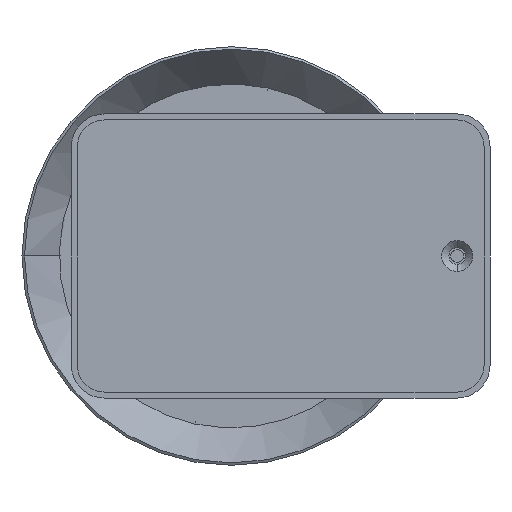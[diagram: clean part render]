
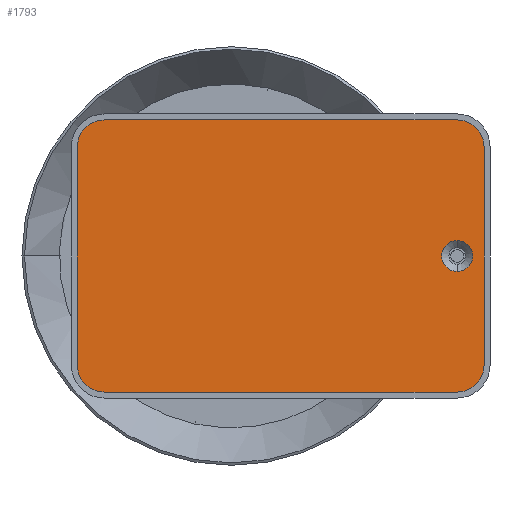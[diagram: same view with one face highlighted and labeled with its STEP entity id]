
A CAD part, front view. The second image highlights one B-rep face of the part: STEP entity #1793.
In plain terms, the highlighted planar face has unit normal (0, -1, 0).
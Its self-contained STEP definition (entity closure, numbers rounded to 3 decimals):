
#62 = DIRECTION ( 'NONE',  ( 0., 0., 1. ) ) ;
#217 = CARTESIAN_POINT ( 'NONE',  ( -136., 0., 45.5 ) ) ;
#306 = CARTESIAN_POINT ( 'NONE',  ( 0., 0., 0. ) ) ;
#384 = VERTEX_POINT ( 'NONE', #3234 ) ;
#388 = CARTESIAN_POINT ( 'NONE',  ( -9., 0., 0. ) ) ;
#428 = VECTOR ( 'NONE', #698, 1000. ) ;
#481 = CARTESIAN_POINT ( 'NONE',  ( 0., 0., 36.5 ) ) ;
#567 = DIRECTION ( 'NONE',  ( 0., -1., 0. ) ) ;
#634 = EDGE_CURVE ( 'NONE', #5266, #2402, #3615, .T. ) ;
#650 = ORIENTED_EDGE ( 'NONE', *, *, #4179, .T. ) ;
#685 = ORIENTED_EDGE ( 'NONE', *, *, #2403, .F. ) ;
#698 = DIRECTION ( 'NONE',  ( 0., 0., 1. ) ) ;
#725 = LINE ( 'NONE', #217, #936 ) ;
#818 = CARTESIAN_POINT ( 'NONE',  ( -9., 0., -45.5 ) ) ;
#895 = DIRECTION ( 'NONE',  ( 0., -1., 0. ) ) ;
#900 = ORIENTED_EDGE ( 'NONE', *, *, #634, .F. ) ;
#918 = EDGE_CURVE ( 'NONE', #5266, #2609, #1652, .T. ) ;
#925 = EDGE_CURVE ( 'NONE', #384, #2476, #3998, .T. ) ;
#936 = VECTOR ( 'NONE', #1049, 1000. ) ;
#962 = ORIENTED_EDGE ( 'NONE', *, *, #3252, .F. ) ;
#1049 = DIRECTION ( 'NONE',  ( 1., 0., 0. ) ) ;
#1061 = EDGE_CURVE ( 'NONE', #1108, #5627, #725, .T. ) ;
#1108 = VERTEX_POINT ( 'NONE', #3775 ) ;
#1164 = DIRECTION ( 'NONE',  ( 0., -1., 0. ) ) ;
#1188 = DIRECTION ( 'NONE',  ( -1., 0., 0. ) ) ;
#1491 = DIRECTION ( 'NONE',  ( 0., 0., 1. ) ) ;
#1613 = CARTESIAN_POINT ( 'NONE',  ( -136., 0., -45.5 ) ) ;
#1652 = CIRCLE ( 'NONE', #4032, 9. ) ;
#1787 = ORIENTED_EDGE ( 'NONE', *, *, #918, .T. ) ;
#1793 = ADVANCED_FACE ( 'NONE', ( #3502, #5267 ), #3720, .F. ) ;
#1847 = CARTESIAN_POINT ( 'NONE',  ( -9., 0., 0. ) ) ;
#1890 = CARTESIAN_POINT ( 'NONE',  ( -127., 0., 36.5 ) ) ;
#1949 = CARTESIAN_POINT ( 'NONE',  ( -127., 0., -36.5 ) ) ;
#1954 = EDGE_LOOP ( 'NONE', ( #3369, #685 ) ) ;
#1990 = LINE ( 'NONE', #2097, #5371 ) ;
#1993 = CARTESIAN_POINT ( 'NONE',  ( -136., 0., -45.5 ) ) ;
#2075 = DIRECTION ( 'NONE',  ( 0., 0., 1. ) ) ;
#2097 = CARTESIAN_POINT ( 'NONE',  ( 0., 0., -45.5 ) ) ;
#2102 = AXIS2_PLACEMENT_3D ( 'NONE', #306, #4194, #2075 ) ;
#2294 = AXIS2_PLACEMENT_3D ( 'NONE', #1949, #1164, #2880 ) ;
#2402 = VERTEX_POINT ( 'NONE', #2671 ) ;
#2403 = EDGE_CURVE ( 'NONE', #2476, #384, #4811, .T. ) ;
#2427 = CARTESIAN_POINT ( 'NONE',  ( -9., 0., 45.5 ) ) ;
#2476 = VERTEX_POINT ( 'NONE', #2762 ) ;
#2609 = VERTEX_POINT ( 'NONE', #3706 ) ;
#2671 = CARTESIAN_POINT ( 'NONE',  ( -127., 0., -45.5 ) ) ;
#2709 = CARTESIAN_POINT ( 'NONE',  ( -9., 0., 36.5 ) ) ;
#2720 = CIRCLE ( 'NONE', #2294, 9. ) ;
#2762 = CARTESIAN_POINT ( 'NONE',  ( -9., 0., 5.2 ) ) ;
#2880 = DIRECTION ( 'NONE',  ( 0., 0., 1. ) ) ;
#2956 = EDGE_CURVE ( 'NONE', #3403, #5255, #5530, .T. ) ;
#3116 = ORIENTED_EDGE ( 'NONE', *, *, #3915, .T. ) ;
#3126 = CARTESIAN_POINT ( 'NONE',  ( -9., 0., -36.5 ) ) ;
#3131 = DIRECTION ( 'NONE',  ( 0., -1., 0. ) ) ;
#3158 = VECTOR ( 'NONE', #1188, 1000. ) ;
#3226 = CARTESIAN_POINT ( 'NONE',  ( -136., 0., -36.5 ) ) ;
#3234 = CARTESIAN_POINT ( 'NONE',  ( -9., 0., -5.2 ) ) ;
#3252 = EDGE_CURVE ( 'NONE', #5475, #2609, #1990, .T. ) ;
#3327 = DIRECTION ( 'NONE',  ( 0., 0., -1. ) ) ;
#3369 = ORIENTED_EDGE ( 'NONE', *, *, #925, .F. ) ;
#3387 = EDGE_CURVE ( 'NONE', #1108, #5255, #5450, .T. ) ;
#3403 = VERTEX_POINT ( 'NONE', #3226 ) ;
#3502 = FACE_BOUND ( 'NONE', #1954, .T. ) ;
#3508 = DIRECTION ( 'NONE',  ( 0., 0., 1. ) ) ;
#3515 = AXIS2_PLACEMENT_3D ( 'NONE', #1890, #4490, #1491 ) ;
#3615 = LINE ( 'NONE', #1613, #3158 ) ;
#3706 = CARTESIAN_POINT ( 'NONE',  ( 0., 0., -36.5 ) ) ;
#3720 = PLANE ( 'NONE',  #2102 ) ;
#3775 = CARTESIAN_POINT ( 'NONE',  ( -127., 0., 45.5 ) ) ;
#3778 = AXIS2_PLACEMENT_3D ( 'NONE', #2709, #567, #62 ) ;
#3829 = ORIENTED_EDGE ( 'NONE', *, *, #2956, .F. ) ;
#3909 = DIRECTION ( 'NONE',  ( 0., 0., -1. ) ) ;
#3915 = EDGE_CURVE ( 'NONE', #3403, #2402, #2720, .T. ) ;
#3940 = DIRECTION ( 'NONE',  ( 0., 0., -1. ) ) ;
#3998 = CIRCLE ( 'NONE', #4926, 5.2 ) ;
#4032 = AXIS2_PLACEMENT_3D ( 'NONE', #3126, #895, #3508 ) ;
#4179 = EDGE_CURVE ( 'NONE', #5475, #5627, #5188, .T. ) ;
#4194 = DIRECTION ( 'NONE',  ( 0., 1., 0. ) ) ;
#4281 = CARTESIAN_POINT ( 'NONE',  ( -136., 0., 36.5 ) ) ;
#4342 = DIRECTION ( 'NONE',  ( 0., -1., 0. ) ) ;
#4490 = DIRECTION ( 'NONE',  ( 0., -1., 0. ) ) ;
#4513 = EDGE_LOOP ( 'NONE', ( #3829, #3116, #900, #1787, #962, #650, #5206, #5385 ) ) ;
#4811 = CIRCLE ( 'NONE', #4861, 5.2 ) ;
#4861 = AXIS2_PLACEMENT_3D ( 'NONE', #1847, #3131, #3940 ) ;
#4926 = AXIS2_PLACEMENT_3D ( 'NONE', #388, #4342, #3909 ) ;
#5188 = CIRCLE ( 'NONE', #3778, 9. ) ;
#5206 = ORIENTED_EDGE ( 'NONE', *, *, #1061, .F. ) ;
#5255 = VERTEX_POINT ( 'NONE', #4281 ) ;
#5266 = VERTEX_POINT ( 'NONE', #818 ) ;
#5267 = FACE_OUTER_BOUND ( 'NONE', #4513, .T. ) ;
#5371 = VECTOR ( 'NONE', #3327, 1000. ) ;
#5385 = ORIENTED_EDGE ( 'NONE', *, *, #3387, .T. ) ;
#5450 = CIRCLE ( 'NONE', #3515, 9. ) ;
#5475 = VERTEX_POINT ( 'NONE', #481 ) ;
#5530 = LINE ( 'NONE', #1993, #428 ) ;
#5627 = VERTEX_POINT ( 'NONE', #2427 ) ;
